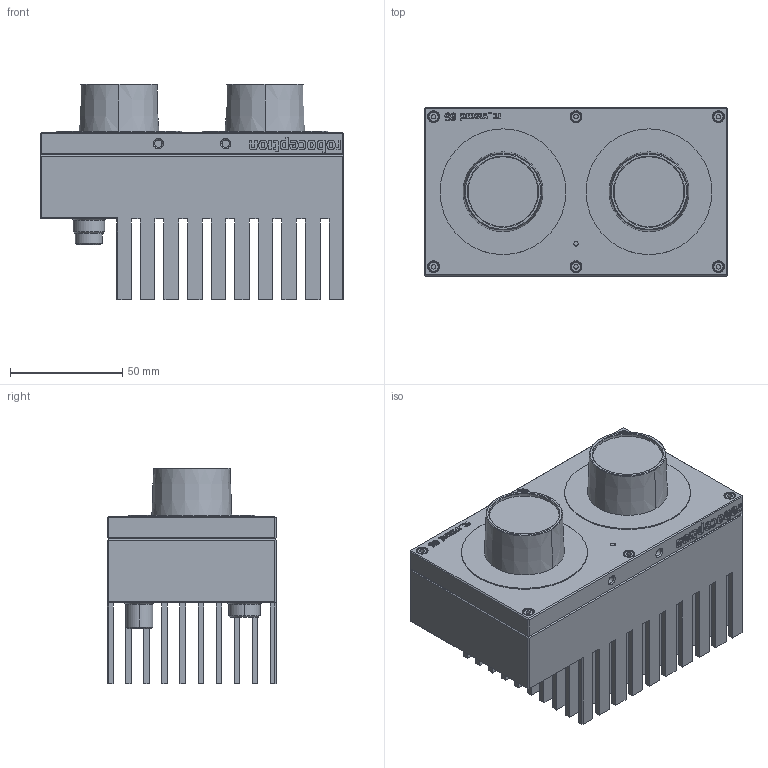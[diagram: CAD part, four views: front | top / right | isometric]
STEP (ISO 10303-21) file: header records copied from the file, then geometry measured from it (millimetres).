
FILE_DESCRIPTION((''),'2;1');
FILE_NAME('RC_VISARD65_VISUAL_MM','2020-09-25T11:00:15',('seibold'),(''),'CREO PARAMETRIC BY PTC INC, 2018500','CREO PARAMETRIC BY PTC INC, 2018500','');
FILE_SCHEMA(('AUTOMOTIVE_DESIGN { 1 0 10303 214 1 1 1 1 }'));
Length unit declared in the file: millimetre
Products named in the file (1): RC_VISARD65_VISUAL_MM
Bounding box: 135 x 75.24 x 96 mm (x, y, z)
Volume: 250485.1 mm3; surface area: 136757.4 mm2
Topology: 1 solids, 1 shells, 1161 faces, 3044 edges, 1997 vertices
Faces by surface type: plane 721, extrusion 296, cylinder 77, cone 63, torus 4
Entity records: 47263 total; most frequent: CARTESIAN_POINT 8979, ORIENTED_EDGE 6076, DIRECTION 4719, PRESENTATION_STYLE_ASSIGNMENT 3148, STYLED_ITEM 3045, CURVE_STYLE 3038, EDGE_CURVE 3038, VECTOR 2493
